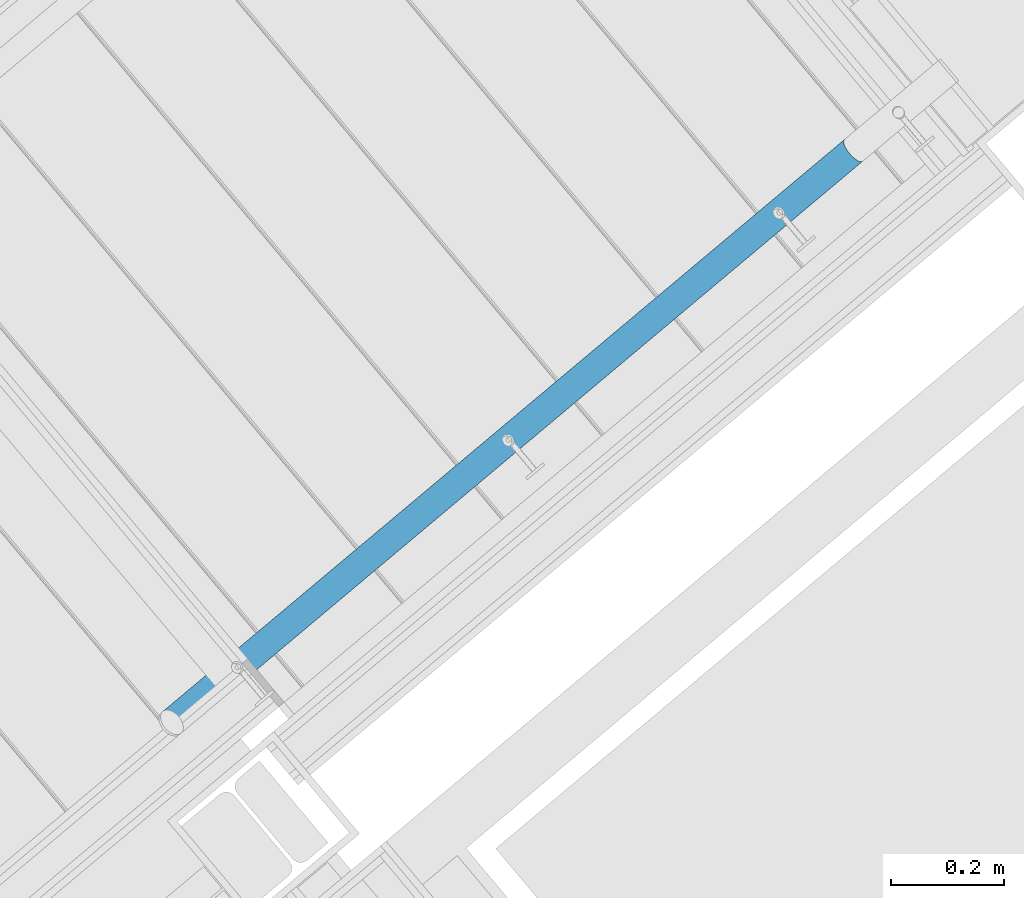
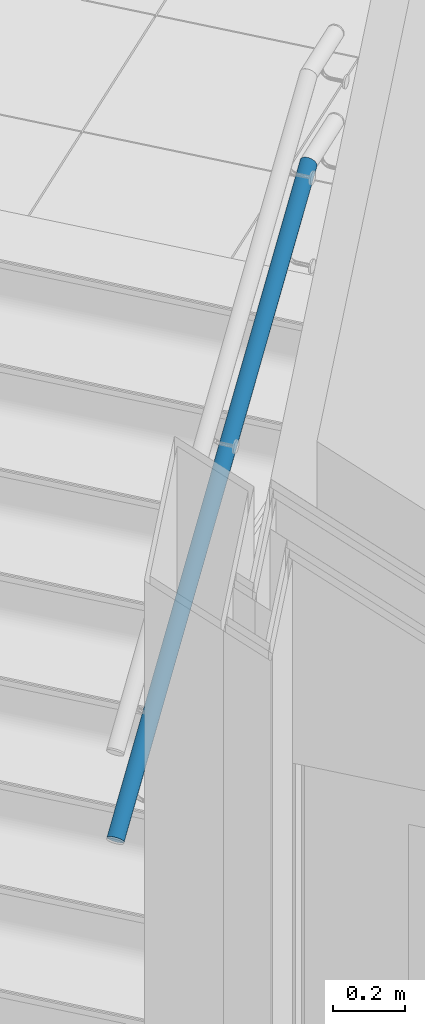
# One storey, part 11 of 338: 1 building element part, 2 elements without a shape of their own.
"""IFC2X3 building model written with IfcOpenShell, lengths in millimetres."""

from ifc_helpers import new_model, entity, si_unit, converted_unit, derived_unit, money_unit, direction, frame, origin_with_axes, place, context, subcontext, project, spatial, faceted_brep, source, transform, mapped, material, type_object, element, aggregate, save


model = new_model("IFC2X3")

# Units and contexts
model_context = context("Model", 3, precision=0.01, world=origin_with_axes(), true_north=direction((0.0, 1.0)))
plan_context = context("Plan", 3, precision=0.01, world=origin_with_axes(), true_north=direction((0.0, 1.0)))
body_context = subcontext(model_context, "Body", "Model", "MODEL_VIEW")
ifc_project = project(units=[si_unit("LENGTHUNIT", "METRE", prefix="MILLI"), si_unit("AREAUNIT", "SQUARE_METRE"), si_unit("VOLUMEUNIT", "CUBIC_METRE"), converted_unit("PLANEANGLEUNIT", "DEGREE", entity("IfcPlaneAngleMeasure", 0.0174532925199), si_unit("PLANEANGLEUNIT", "RADIAN"), dimensions=[0, 0, 0, 0, 0, 0, 0]), money_unit("EUR"), converted_unit("TIMEUNIT", "Year", entity("IfcTimeMeasure", 31556926.0), si_unit("TIMEUNIT", "SECOND"), dimensions=[0, 0, 1, 0, 0, 0, 0]), si_unit("MASSUNIT", "GRAM", prefix="KILO"), si_unit("THERMODYNAMICTEMPERATUREUNIT", "DEGREE_CELSIUS"), si_unit("LUMINOUSINTENSITYUNIT", "LUMEN"), si_unit("ENERGYUNIT", "JOULE", prefix="MEGA"), derived_unit("THERMALCONDUCTANCEUNIT", [(si_unit("POWERUNIT", "WATT"), 1), (si_unit("LENGTHUNIT", "METRE"), -1), (si_unit("THERMODYNAMICTEMPERATUREUNIT", "KELVIN"), -1)]), derived_unit("SPECIFICHEATCAPACITYUNIT", [(si_unit("ENERGYUNIT", "JOULE"), 1), (si_unit("MASSUNIT", "GRAM", prefix="KILO"), -1), (si_unit("THERMODYNAMICTEMPERATUREUNIT", "KELVIN"), -1)]), derived_unit("MASSDENSITYUNIT", [(si_unit("MASSUNIT", "GRAM", prefix="KILO"), 1), (si_unit("VOLUMEUNIT", "CUBIC_METRE"), -1)])], contexts=[model_context, plan_context])

# Site, building, storey
site_placement = place(None, origin_with_axes())
site = spatial("IfcSite", under=ifc_project, at=site_placement, Name="Fortuinstraat Woensdrecht", CompositionType="ELEMENT")
building_placement = place(site_placement, origin_with_axes())
building = spatial("IfcBuilding", under=site, at=building_placement, Name="IKC Fortuna", CompositionType="ELEMENT")
storey_placement = place(building_placement, origin_with_axes())
storey = spatial("IfcBuildingStorey", under=building, at=storey_placement, Name="00 begane grond", CompositionType="ELEMENT", Elevation=0.0)

# Railing, member, building element part
railing_type = type_object("IfcRailingType", Name="Railing Type", PredefinedType="NOTDEFINED")
railing_placement = place(storey_placement, frame((20422.3680821, 638.704533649, 2243.75), z_axis=(0.0, 0.0, 1.0), x_axis=(-0.173648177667, -0.984807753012, 0.0)))
railing = element("IfcRailing", 1, at=railing_placement, inside=storey, type_object=railing_type, Name="_Reling_Reling-x", PredefinedType="NOTDEFINED")
member_type = type_object("IfcMemberType", Name="IfcMember", PredefinedType="USERDEFINED")
member_placement = place(railing_placement, frame((-765.432026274, 437.395073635, 1025.34830056), z_axis=(0.0, 0.0, 1.0), x_axis=(-0.173648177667, 0.984807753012, 0.0)))
member = element("IfcMember", 2, at=member_placement, type_object=member_type, Name="_Reling - regel_Handregel-x")
aggregate(railing, [member])
ifc_material = material(Name="Hout AFW")
shared_shape = source(origin_with_axes(), body_context, "Body", "Brep", [
    faceted_brep([(-68.3343935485, 105.836546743, 880.531152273), (-70.1764780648, 103.795052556, 883.911882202), (1131.99702596, 1112.53839639, 2148.09120444), (1132.92574558, 1113.81348644, 2143.75), (-66.0040396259, 107.296144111, 877.150422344), (-63.2562229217, 108.129495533, 873.872414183), (-60.1744344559, 108.311280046, 870.796728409), (-56.8523128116, 107.835974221, 868.016818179), (-53.390798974, 106.718019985, 865.617149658), (-49.8950692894, 104.991385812, 863.670635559), (-46.4713397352, 102.708534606, 862.236419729), (-43.2236386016, 99.9388296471, 861.358080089), (-40.2506456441, 96.7664270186, 861.062304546), (-37.6426937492, 93.2877185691, 861.358080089), (-35.4790242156, 89.6084030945, 862.236419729), (-33.8253790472, 85.8402747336, 863.670635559), (-32.7320034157, 82.09782616, 865.617149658), (-32.2321189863, 78.4947697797, 868.016818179), (-32.3409144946, 75.1405826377, 870.796728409), (-33.0550842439, 72.137180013, 873.872414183), (-34.3529285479, 69.5758187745, 877.150422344), (-36.1950130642, 67.5343245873, 880.531152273), (-38.5253669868, 66.0747272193, 883.911882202), (-41.2731836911, 65.2413757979, 887.189890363), (-44.3549721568, 65.0595912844, 890.265576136), (-47.6770938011, 65.5348971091, 893.045486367), (-51.1386076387, 66.6528513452, 895.445154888), (-54.6343373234, 68.3794855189, 897.391668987), (-58.0580668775, 70.6623367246, 898.825884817), (-61.3057680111, 73.4320416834, 899.704224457), (-64.2787609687, 76.6044443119, 900.0), (-66.8867128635, 80.0831527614, 899.704224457), (-69.0503823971, 83.762468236, 898.825884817), (-70.7040275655, 87.5305965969, 897.391668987), (-71.797403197, 91.2730451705, 895.445154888), (-72.2972876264, 94.8761015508, 893.045486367), (-72.1884921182, 98.2302886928, 890.265576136), (-71.4743223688, 101.233691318, 887.189890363), (1131.58479442, 1110.7201525, 2152.30050358), (1131.7015764, 1108.41400117, 2156.25), (1132.34382356, 1105.69001365, 2159.81969024), (1133.49202153, 1102.63095692, 2162.90111108), (1135.11128289, 1099.32977887, 2165.40063509), (1137.15240722, 1095.88678413, 2167.24231552), (1139.55337598, 1092.40658634, 2168.37019383), (1142.24123694, 1088.99492957, 2168.75), (1145.13432083, 1085.75547527, 2168.37019383), (1148.14472274, 1082.78665261, 2167.24231552), (1151.18097313, 1080.17866779, 2165.40063509), (1154.15081708, 1078.01076309, 2162.90111108), (1156.96401738, 1076.3488092, 2159.81969024), (1159.53509636, 1075.24330376, 2156.25), (1161.78593309, 1074.72783698, 2152.30050358), (1163.64813704, 1074.81807106, 2148.09120444), (1165.06512607, 1075.51126428, 2143.75), (1165.99384569, 1076.78635432, 2139.40879556), (1166.40607723, 1078.60459822, 2135.19949642), (1166.28929525, 1080.91074955, 2131.25), (1165.64704809, 1083.63473707, 2127.68030976), (1164.49885012, 1086.6937938, 2124.59888892), (1162.87958876, 1089.99497185, 2122.09936491), (1160.83846443, 1093.43796659, 2120.25768448), (1158.43749567, 1096.91816437, 2119.12980617), (1155.74963471, 1100.32982115, 2118.75), (1152.85655082, 1103.56927545, 2119.12980617), (1149.84614891, 1106.5380981, 2120.25768448), (1146.80989852, 1109.14608293, 2122.09936491), (1143.84005457, 1111.31398762, 2124.59888892), (1141.02685427, 1112.97594151, 2127.68030976), (1138.45577528, 1114.08144696, 2131.25), (1136.20493856, 1114.59691374, 2135.19949642), (1134.34273461, 1114.50667966, 2139.40879556)], [[[0, 1, 2, 3]], [[0, 4, 5, 6, 7, 8, 9, 10, 11, 12, 13, 14, 15, 16, 17, 18, 19, 20, 21, 22, 23, 24, 25, 26, 27, 28, 29, 30, 31, 32, 33, 34, 35, 36, 37, 1]], [[1, 37, 38, 2]], [[3, 2, 38, 39, 40, 41, 42, 43, 44, 45, 46, 47, 48, 49, 50, 51, 52, 53, 54, 55, 56, 57, 58, 59, 60, 61, 62, 63, 64, 65, 66, 67, 68, 69, 70, 71]], [[4, 0, 3, 71]], [[5, 4, 71, 70]], [[6, 5, 70, 69]], [[7, 6, 69, 68]], [[8, 7, 68, 67]], [[9, 8, 67, 66]], [[10, 9, 66, 65]], [[11, 10, 65, 64]], [[12, 11, 64, 63]], [[13, 12, 63, 62]], [[14, 13, 62, 61]], [[15, 14, 61, 60]], [[16, 15, 60, 59]], [[17, 16, 59, 58]], [[18, 17, 58, 57]], [[19, 18, 57, 56]], [[20, 19, 56, 55]], [[21, 20, 55, 54]], [[22, 21, 54, 53]], [[23, 22, 53, 52]], [[24, 23, 52, 51]], [[25, 24, 51, 50]], [[26, 25, 50, 49]], [[27, 26, 49, 48]], [[28, 27, 48, 47]], [[29, 28, 47, 46]], [[30, 29, 46, 45]], [[31, 30, 45, 44]], [[32, 31, 44, 43]], [[33, 32, 43, 42]], [[34, 33, 42, 41]], [[35, 34, 41, 40]], [[36, 35, 40, 39]], [[37, 36, 39, 38]]]),
])
building_element_part_placement = place(member_placement, origin_with_axes())
building_element_part = element("IfcBuildingElementPart", 3, at=building_element_part_placement, material=ifc_material, Name="Hout AFW", context=body_context, shape_type="MappedRepresentation", body=[
    mapped(shared_shape, transform((-538.981237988, -582.79968694, -844.098300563))),
])
aggregate(member, [building_element_part])

save(model, "model.ifc")
